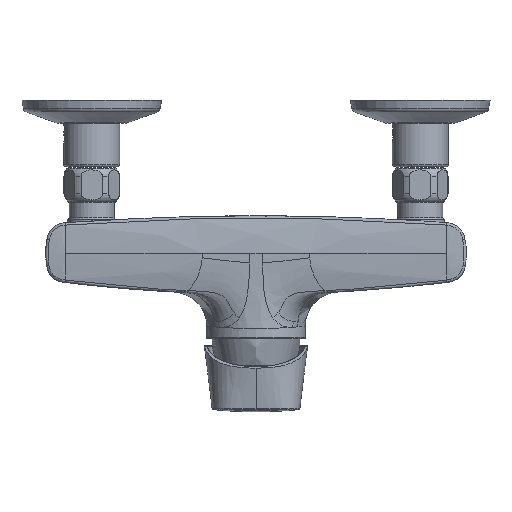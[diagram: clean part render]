
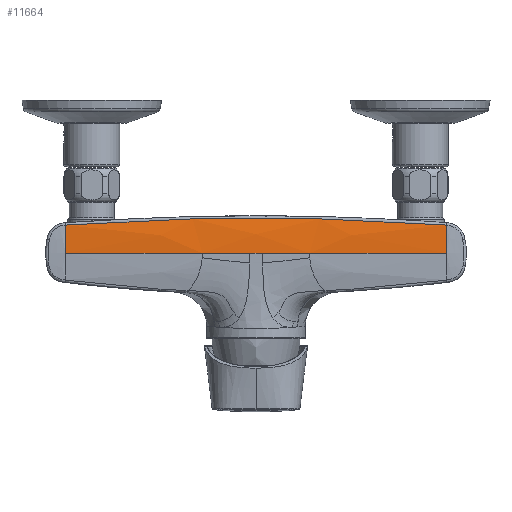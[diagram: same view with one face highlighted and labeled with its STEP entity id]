
A CAD part, top view. The second image highlights one B-rep face of the part: STEP entity #11664.
In plain terms, the highlighted free-form (B-spline) face has degree [3, 3] with [5, 7] control points.
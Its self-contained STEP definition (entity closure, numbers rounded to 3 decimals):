
#176=CARTESIAN_POINT('',(88.719,0.,
0.78));
#177=CARTESIAN_POINT('',(88.719,2.428,0.782));
#178=CARTESIAN_POINT('',(88.719,6.743,0.654));
#179=CARTESIAN_POINT('',(88.719,11.135,0.312));
#180=CARTESIAN_POINT('',(88.719,13.14,0.112));
#1246=CARTESIAN_POINT('',(-88.719,13.139,
0.112));
#1247=CARTESIAN_POINT('',(-88.719,11.135,
0.312));
#1248=CARTESIAN_POINT('',(-88.719,6.743,
0.654));
#1249=CARTESIAN_POINT('',(-88.719,2.428,
0.782));
#1250=CARTESIAN_POINT('',(-88.719,0.,
0.78));
#1290=CARTESIAN_POINT('',(3.,0.,
2.498));
#1291=CARTESIAN_POINT('',(2.,0.,
2.499));
#1292=CARTESIAN_POINT('',(0.,0.,
2.501));
#1293=CARTESIAN_POINT('',(-2.,0.,
2.499));
#1294=CARTESIAN_POINT('',(-3.,0.,
2.498));
#1296=CARTESIAN_POINT('',(-3.,0.,
2.498));
#1297=CARTESIAN_POINT('',(-10.333,0.,
2.49));
#1298=CARTESIAN_POINT('',(-17.665,0.,
2.453));
#1299=CARTESIAN_POINT('',(-24.998,0.,
2.393));
#1301=CARTESIAN_POINT('',(88.719,13.14,0.112));
#1302=CARTESIAN_POINT('',(86.873,13.283,0.128));
#1303=CARTESIAN_POINT('',(83.182,13.557,0.156));
#1304=CARTESIAN_POINT('',(77.644,13.937,0.188));
#1305=CARTESIAN_POINT('',(72.104,14.284,0.213));
#1306=CARTESIAN_POINT('',(64.715,14.708,0.236));
#1307=CARTESIAN_POINT('',(55.477,15.164,0.251));
#1308=CARTESIAN_POINT('',(44.386,15.605,0.257));
#1309=CARTESIAN_POINT('',(33.292,15.948,0.265));
#1310=CARTESIAN_POINT('',(22.196,16.194,0.273));
#1311=CARTESIAN_POINT('',(11.098,16.342,0.279));
#1312=CARTESIAN_POINT('',(0.,16.391,
0.281));
#1313=CARTESIAN_POINT('',(-11.098,16.342,
0.279));
#1314=CARTESIAN_POINT('',(-22.194,16.194,
0.273));
#1315=CARTESIAN_POINT('',(-33.289,15.948,
0.266));
#1316=CARTESIAN_POINT('',(-44.382,15.605,
0.258));
#1317=CARTESIAN_POINT('',(-55.473,15.164,
0.251));
#1318=CARTESIAN_POINT('',(-64.713,14.707,
0.236));
#1319=CARTESIAN_POINT('',(-72.103,14.284,
0.213));
#1320=CARTESIAN_POINT('',(-77.643,13.936,
0.189));
#1321=CARTESIAN_POINT('',(-83.182,13.556,
0.156));
#1322=CARTESIAN_POINT('',(-86.873,13.282,
0.128));
#1323=CARTESIAN_POINT('',(-88.719,13.139,
0.112));
#1352=CARTESIAN_POINT('',(24.998,0.,
2.393));
#1353=CARTESIAN_POINT('',(31.454,0.,
2.34));
#1354=CARTESIAN_POINT('',(52.701,0.,2.107));
#1355=CARTESIAN_POINT('',(73.958,0.,
1.726));
#1356=CARTESIAN_POINT('',(88.719,0.,
0.78));
#2102=CARTESIAN_POINT('',(-3.,0.,
2.498));
#2152=CARTESIAN_POINT('',(-88.719,0.,
0.78));
#2153=CARTESIAN_POINT('',(-73.958,0.,
1.726));
#2154=CARTESIAN_POINT('',(-52.701,0.,
2.107));
#2155=CARTESIAN_POINT('',(-31.454,0.,
2.34));
#2156=CARTESIAN_POINT('',(-24.998,0.,
2.393));
#2716=CARTESIAN_POINT('',(3.,0.,
2.498));
#2718=CARTESIAN_POINT('',(3.,0.,
2.498));
#2719=CARTESIAN_POINT('',(4.047,0.,
2.497));
#2720=CARTESIAN_POINT('',(6.141,0.,2.494));
#2721=CARTESIAN_POINT('',(9.286,0.,
2.485));
#2722=CARTESIAN_POINT('',(12.429,0.,
2.473));
#2723=CARTESIAN_POINT('',(15.57,0.,
2.458));
#2724=CARTESIAN_POINT('',(18.716,0.,
2.439));
#2725=CARTESIAN_POINT('',(21.852,0.,
2.418));
#2726=CARTESIAN_POINT('',(23.95,0.,
2.401));
#2727=CARTESIAN_POINT('',(24.998,0.,
2.393));
#8751=VERTEX_POINT('',#2102);
#8753=VERTEX_POINT('',#2716);
#8755=VERTEX_POINT('',#1301);
#8756=VERTEX_POINT('',#1323);
#8757=VERTEX_POINT('',#1352);
#8758=VERTEX_POINT('',#1356);
#8759=VERTEX_POINT('',#1299);
#8760=VERTEX_POINT('',#2152);
#11612=CARTESIAN_POINT('',(90.49,13.304,
0.07));
#11613=CARTESIAN_POINT('',(75.143,14.405,
0.185));
#11614=CARTESIAN_POINT('',(45.,16.016,
0.248));
#11615=CARTESIAN_POINT('',(-0.004,16.806,
0.289));
#11616=CARTESIAN_POINT('',(-44.985,16.016,
0.248));
#11617=CARTESIAN_POINT('',(-75.141,14.405,
0.185));
#11618=CARTESIAN_POINT('',(-90.49,13.304,
0.07));
#11619=CARTESIAN_POINT('',(90.49,11.227,
0.25));
#11620=CARTESIAN_POINT('',(75.14,12.174,
0.659));
#11621=CARTESIAN_POINT('',(44.984,13.559,
0.883));
#11622=CARTESIAN_POINT('',(-0.003,14.239,
1.032));
#11623=CARTESIAN_POINT('',(-44.971,13.56,
0.883));
#11624=CARTESIAN_POINT('',(-75.138,12.174,
0.659));
#11625=CARTESIAN_POINT('',(-90.49,11.227,
0.25));
#11626=CARTESIAN_POINT('',(90.491,6.785,
0.556));
#11627=CARTESIAN_POINT('',(75.136,7.35,1.442));
#11628=CARTESIAN_POINT('',(44.961,8.178,1.92));
#11629=CARTESIAN_POINT('',(-0.002,8.585,
2.24));
#11630=CARTESIAN_POINT('',(-44.951,8.178,
1.92));
#11631=CARTESIAN_POINT('',(-75.135,7.35,
1.443));
#11632=CARTESIAN_POINT('',(-90.491,6.785,
0.556));
#11633=CARTESIAN_POINT('',(90.49,2.182,
0.663));
#11634=CARTESIAN_POINT('',(75.14,2.439,1.708));
#11635=CARTESIAN_POINT('',(44.96,2.815,2.263));
#11636=CARTESIAN_POINT('',(-0.002,3.,
2.638));
#11637=CARTESIAN_POINT('',(-44.95,2.815,
2.263));
#11638=CARTESIAN_POINT('',(-75.138,2.439,
1.708));
#11639=CARTESIAN_POINT('',(-90.49,2.182,
0.663));
#11640=CARTESIAN_POINT('',(90.49,-0.123,
0.663));
#11641=CARTESIAN_POINT('',(75.144,-0.138,
1.704));
#11642=CARTESIAN_POINT('',(44.966,-0.159,
2.251));
#11643=CARTESIAN_POINT('',(-0.003,-0.169,
2.621));
#11644=CARTESIAN_POINT('',(-44.955,-0.159,
2.251));
#11645=CARTESIAN_POINT('',(-75.142,-0.138,
1.704));
#11646=CARTESIAN_POINT('',(-90.49,-0.123,
0.663));
#11647=B_SPLINE_SURFACE_WITH_KNOTS('',3,3,((#11612,#11613,#11614,#11615,#11616,
#11617,#11618),(#11619,#11620,#11621,#11622,#11623,#11624,#11625),(#11626,
#11627,#11628,#11629,#11630,#11631,#11632),(#11633,#11634,#11635,#11636,#11637,
#11638,#11639),(#11640,#11641,#11642,#11643,#11644,#11645,#11646)),
.UNSPECIFIED.,.F.,.F.,.F.,(4,1,4),(4,1,1,1,4),(0.893,
7.974,16.093),(-1.777,44.421,
88.842,133.263,179.461),.UNSPECIFIED.);
#11649=ORIENTED_EDGE('',*,*,#11648,.F.);
#11650=ORIENTED_EDGE('',*,*,#9197,.F.);
#11652=ORIENTED_EDGE('',*,*,#11651,.F.);
#11654=ORIENTED_EDGE('',*,*,#11653,.F.);
#11656=ORIENTED_EDGE('',*,*,#11655,.T.);
#11658=ORIENTED_EDGE('',*,*,#11657,.T.);
#11660=ORIENTED_EDGE('',*,*,#11659,.F.);
#11661=ORIENTED_EDGE('',*,*,#11603,.F.);
#11662=EDGE_LOOP('',(#11649,#11650,#11652,#11654,#11656,#11658,#11660,#11661));
#11663=FACE_OUTER_BOUND('',#11662,.F.);
#11664=ADVANCED_FACE('',(#11663),#11647,.F.);
#181=B_SPLINE_CURVE_WITH_KNOTS('',3,(#176,#177,#178,#179,#180),.UNSPECIFIED.,
.F.,.F.,(4,1,4),(0.,0.541,1.),.UNSPECIFIED.);
#1251=B_SPLINE_CURVE_WITH_KNOTS('',3,(#1246,#1247,#1248,#1249,#1250),
.UNSPECIFIED.,.F.,.F.,(4,1,4),(0.,0.459,1.),.UNSPECIFIED.);
#1295=B_SPLINE_CURVE_WITH_KNOTS('',3,(#1290,#1291,#1292,#1293,#1294),
.UNSPECIFIED.,.F.,.F.,(4,1,4),(0.,0.5,1.),.UNSPECIFIED.);
#1300=B_SPLINE_CURVE_WITH_KNOTS('',3,(#1296,#1297,#1298,#1299),.UNSPECIFIED.,
.F.,.F.,(4,4),(0.,1.),.UNSPECIFIED.);
#1324=B_SPLINE_CURVE_WITH_KNOTS('',3,(#1301,#1302,#1303,#1304,#1305,#1306,#1307,
#1308,#1309,#1310,#1311,#1312,#1313,#1314,#1315,#1316,#1317,#1318,#1319,#1320,
#1321,#1322,#1323),.UNSPECIFIED.,.F.,.F.,(4,1,1,1,1,1,1,1,1,1,1,1,1,1,1,1,1,1,1,
1,4),(0.,0.031,0.063,0.094,
0.125,0.188,0.25,0.313,
0.375,0.438,0.5,0.563,
0.625,0.688,0.75,0.813,
0.875,0.906,0.938,0.969,1.),
.UNSPECIFIED.);
#1357=B_SPLINE_CURVE_WITH_KNOTS('',3,(#1352,#1353,#1354,#1355,#1356),
.UNSPECIFIED.,.F.,.F.,(4,1,4),(0.,0.304,1.),.UNSPECIFIED.);
#2157=B_SPLINE_CURVE_WITH_KNOTS('',3,(#2152,#2153,#2154,#2155,#2156),
.UNSPECIFIED.,.F.,.F.,(4,1,4),(0.,0.696,1.),.UNSPECIFIED.);
#2728=B_SPLINE_CURVE_WITH_KNOTS('',3,(#2718,#2719,#2720,#2721,#2722,#2723,#2724,
#2725,#2726,#2727),.UNSPECIFIED.,.F.,.F.,(4,1,1,1,1,1,1,4),(0.,
0.143,0.286,0.429,0.571,
0.714,0.857,1.),.UNSPECIFIED.);
#9197=EDGE_CURVE('',#8758,#8755,#181,.T.);
#11603=EDGE_CURVE('',#8756,#8760,#1251,.T.);
#11648=EDGE_CURVE('',#8755,#8756,#1324,.T.);
#11651=EDGE_CURVE('',#8757,#8758,#1357,.T.);
#11653=EDGE_CURVE('',#8753,#8757,#2728,.T.);
#11655=EDGE_CURVE('',#8753,#8751,#1295,.T.);
#11657=EDGE_CURVE('',#8751,#8759,#1300,.T.);
#11659=EDGE_CURVE('',#8760,#8759,#2157,.T.);
